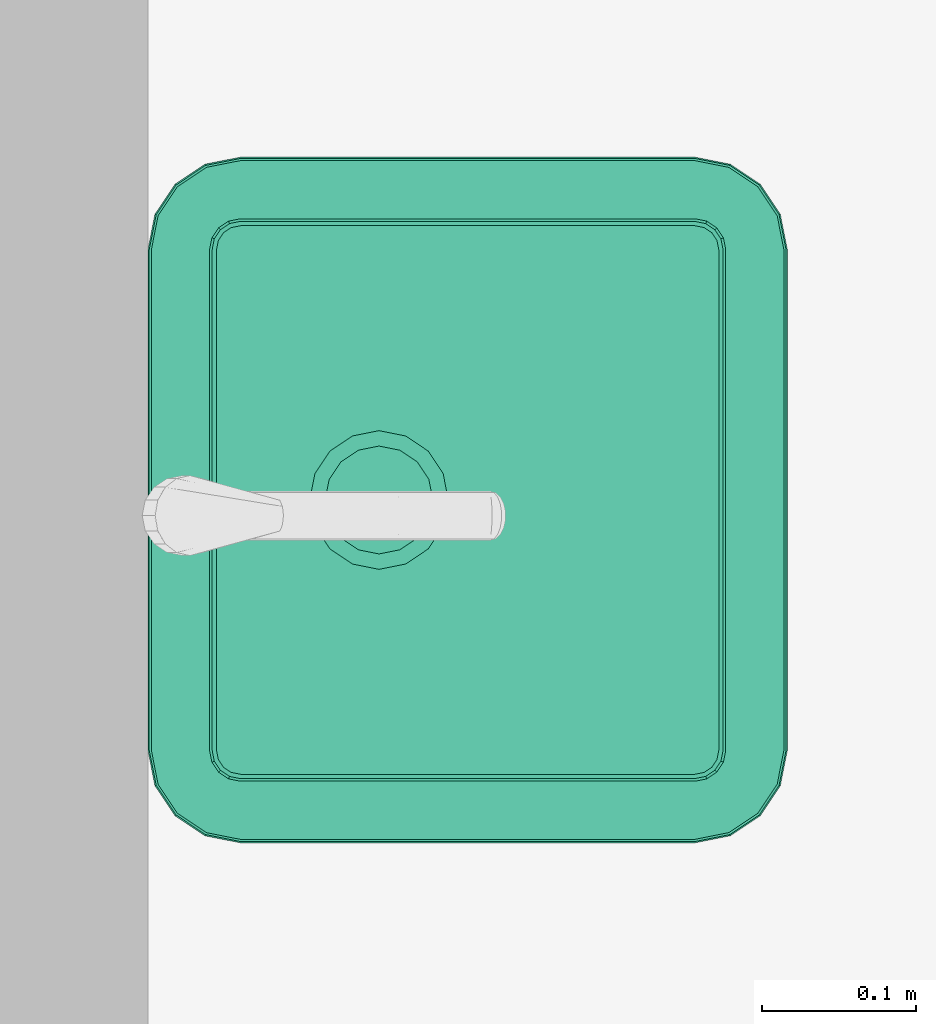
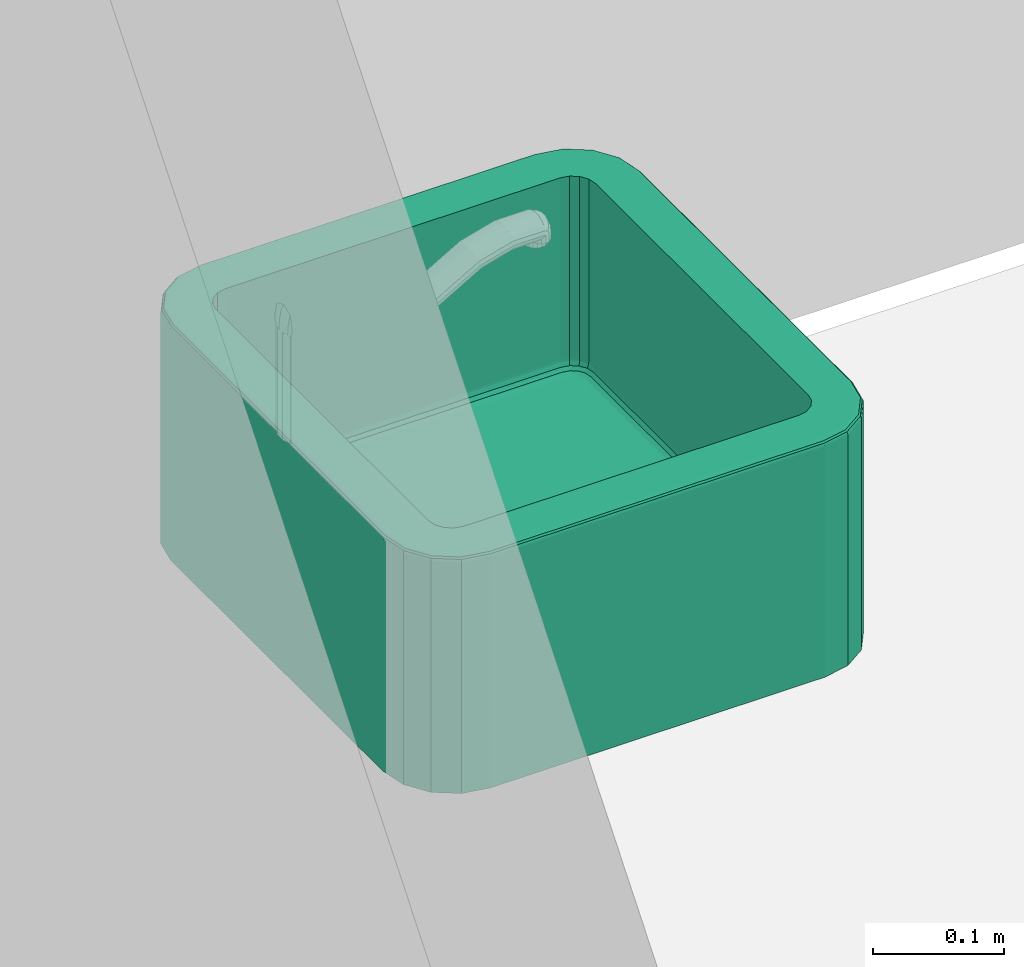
# One storey, part 89 of 127: 1 flow terminal.
"""IFC2X3 building model written with IfcOpenShell, lengths in millimetres."""

from ifc_helpers import new_model, entity, si_unit, converted_unit, derived_unit, money_unit, direction, frame, origin_with_axes, place, context, subcontext, project, spatial, faceted_brep, source, transform, mapped, type_object, element, save


model = new_model("IFC2X3")

# Units and contexts
model_context = context("Model", 3, precision=1e-05, world=origin_with_axes(), true_north=direction((0.0, 1.0)))
body_context = subcontext(model_context, "Body", "Model", "MODEL_VIEW")
ifc_project = project(units=[si_unit("LENGTHUNIT", "METRE", prefix="MILLI"), si_unit("AREAUNIT", "SQUARE_METRE"), si_unit("VOLUMEUNIT", "CUBIC_METRE"), converted_unit("PLANEANGLEUNIT", "DEGREE", entity("IfcPlaneAngleMeasure", 0.0174532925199), si_unit("PLANEANGLEUNIT", "RADIAN"), dimensions=[0, 0, 0, 0, 0, 0, 0]), si_unit("SOLIDANGLEUNIT", "STERADIAN"), money_unit("EUR"), converted_unit("TIMEUNIT", "Year", entity("IfcTimeMeasure", 31556926.0), si_unit("TIMEUNIT", "SECOND"), dimensions=[0, 0, 1, 0, 0, 0, 0]), si_unit("MASSUNIT", "GRAM", prefix="KILO"), si_unit("THERMODYNAMICTEMPERATUREUNIT", "DEGREE_CELSIUS"), si_unit("LUMINOUSINTENSITYUNIT", "LUMEN"), si_unit("ENERGYUNIT", "JOULE", prefix="MEGA"), derived_unit("THERMALCONDUCTANCEUNIT", [(si_unit("POWERUNIT", "WATT"), 1), (si_unit("LENGTHUNIT", "METRE"), -1), (si_unit("THERMODYNAMICTEMPERATUREUNIT", "KELVIN"), -1)]), derived_unit("SPECIFICHEATCAPACITYUNIT", [(si_unit("ENERGYUNIT", "JOULE"), 1), (si_unit("MASSUNIT", "GRAM", prefix="KILO"), -1), (si_unit("THERMODYNAMICTEMPERATUREUNIT", "KELVIN"), -1)]), derived_unit("MASSDENSITYUNIT", [(si_unit("MASSUNIT", "GRAM", prefix="KILO"), 1), (si_unit("VOLUMEUNIT", "CUBIC_METRE"), -1)])], contexts=[model_context])

# Site, building, storey
site_placement = place(None, origin_with_axes())
site = spatial("IfcSite", under=ifc_project, at=site_placement, Name="Site", CompositionType="ELEMENT")
building_placement = place(site_placement, origin_with_axes())
building = spatial("IfcBuilding", under=site, at=building_placement, Name="Building", CompositionType="ELEMENT")
storey_placement = place(building_placement, origin_with_axes())
storey = spatial("IfcBuildingStorey", under=building, at=storey_placement, Name="1 KORRUS", CompositionType="ELEMENT", Elevation=0.0)

# Flow terminal
sanitary_terminal_type = type_object("IfcSanitaryTerminalType", Name="Sink Belfast 22", PredefinedType="NOTDEFINED")
shared_shape = source(origin_with_axes(), body_context, "Body", "Brep", [
    faceted_brep([(21.1783900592, 393.821609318, 899.999999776), (9.27712238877, 376.010103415, 899.999999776), (4.99999698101, 354.50754327, 899.999999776), (4.99999698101, 60.4924569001, 899.999999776), (9.27712239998, 38.9898958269, 899.999999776), (21.1783900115, 21.1783900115, 899.999999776), (38.9898958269, 9.27712239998, 899.999999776), (60.4924569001, 4.99999698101, 899.999999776), (384.507543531, 4.99999698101, 899.999999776), (406.010103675, 9.27712238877, 899.999999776), (423.821609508, 21.1783900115, 899.999999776), (435.722877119, 38.9898958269, 899.999999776), (440.000002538, 60.4924569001, 899.999999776), (440.000002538, 354.50754327, 899.999999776), (435.72287713, 376.010103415, 899.999999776), (423.82160946, 393.821609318, 899.999999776), (406.010103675, 405.722877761, 899.999999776), (384.507543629, 410.000002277, 899.999999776), (222.499999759, 410.000002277, 899.999999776), (60.4924568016, 410.000002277, 899.999999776), (38.9898958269, 405.72287775, 899.999999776), (399.142135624, 369.142135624, 900.0), (403.47759065, 362.653668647, 900.0), (405.0, 355.0, 900.0), (405.0, 60.0, 900.0), (403.47759065, 52.3463313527, 900.0), (399.142135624, 45.8578643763, 900.0), (392.653668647, 41.5224093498, 900.0), (385.0, 40.0, 900.0), (60.0, 40.0, 900.0), (52.3463313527, 41.5224093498, 900.0), (45.8578643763, 45.8578643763, 900.0), (41.5224093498, 52.3463313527, 900.0), (40.0, 60.0, 900.0), (40.0, 355.0, 900.0), (41.5224093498, 362.653668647, 900.0), (45.8578643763, 369.142135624, 900.0), (52.3463313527, 373.47759065, 900.0), (60.0, 375.0, 900.0), (222.5, 375.0, 900.0), (385.0, 375.0, 900.0), (392.653668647, 373.47759065, 900.0), (20.4751302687, 394.524869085, 899.903926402), (8.3582692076, 376.390704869, 899.903926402), (4.02454764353, 354.60361665, 899.903926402), (4.02454764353, 60.396383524, 899.903926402), (8.35826921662, 38.6092943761, 899.903926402), (20.4751302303, 20.4751302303, 899.903926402), (38.6092943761, 8.35826921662, 899.903926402), (60.396383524, 4.02454764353, 899.903926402), (384.603616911, 4.02454764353, 899.903926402), (406.390705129, 8.3582692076, 899.903926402), (424.524869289, 20.4751302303, 899.903926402), (436.641730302, 38.6092943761, 899.903926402), (440.975451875, 60.396383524, 899.903926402), (440.975451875, 354.60361665, 899.903926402), (436.641730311, 376.390704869, 899.903926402), (424.52486925, 394.524869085, 899.903926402), (406.390705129, 406.64173095, 899.903926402), (384.60361699, 410.975451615, 899.903926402), (222.499999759, 410.975451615, 899.903926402), (60.3963834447, 410.975451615, 899.903926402), (38.6092943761, 406.641730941, 899.903926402), (399.142135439, 369.142135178, 730.0), (403.477591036, 362.653668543, 730.0), (404.999999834, 355.00000002, 730.0), (404.999999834, 60.0000000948, 730.0), (403.477591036, 52.3463315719, 730.0), (399.142135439, 45.8578640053, 730.0), (392.653668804, 41.5224093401, 730.0), (385.000000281, 39.9999996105, 730.0), (60.0000000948, 39.9999996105, 730.0), (52.3463315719, 41.5224093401, 730.0), (45.8578640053, 45.8578640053, 730.0), (41.5224093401, 52.3463315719, 730.0), (39.9999996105, 60.0000000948, 730.0), (39.9999996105, 355.00000002, 730.0), (41.5224093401, 362.653668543, 730.0), (45.8578640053, 369.142135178, 730.0), (52.3463315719, 373.477590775, 730.0), (60.0000000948, 374.999999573, 730.0), (222.499999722, 374.999999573, 730.0), (385.000000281, 374.999999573, 730.0), (392.653668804, 373.477590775, 730.0), (19.175673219, 395.824326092, 899.157348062), (6.66044678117, 377.093965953, 899.157348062), (2.22214896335, 354.781137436, 899.157348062), (2.22214896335, 60.2188627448, 899.157348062), (6.66044678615, 37.9060332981, 899.157348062), (19.1756731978, 19.1756731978, 899.157348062), (37.9060332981, 6.66044678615, 899.157348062), (60.2188627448, 2.22214896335, 899.157348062), (384.781137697, 2.22214896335, 899.157348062), (407.093966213, 6.66044678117, 899.157348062), (425.824326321, 19.1756731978, 899.157348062), (438.339552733, 37.9060332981, 899.157348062), (442.777850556, 60.2188627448, 899.157348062), (442.777850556, 354.781137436, 899.157348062), (438.339552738, 377.093965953, 899.157348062), (425.8243263, 395.824326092, 899.157348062), (407.093966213, 408.339553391, 899.157348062), (384.781137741, 412.777850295, 899.157348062), (222.499999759, 412.777850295, 899.157348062), (60.2188627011, 412.777850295, 899.157348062), (37.9060332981, 408.339553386, 899.157348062), (399.003605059, 369.003604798, 728.04909678), (403.296592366, 362.578696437, 728.04909678), (404.807852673, 354.981075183, 728.04909678), (404.807852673, 60.0189249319, 728.04909678), (403.296592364, 52.4213036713, 728.04909678), (399.003605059, 45.9963943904, 728.04909678), (392.578696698, 41.7034080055, 728.04909678), (384.981075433, 40.1921467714, 728.04909678), (60.0189249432, 40.1921467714, 728.04909678), (52.4213036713, 41.7034080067, 728.04909678), (45.9963943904, 45.9963943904, 728.04909678), (41.7034080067, 52.4213036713, 728.04909678), (40.1921467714, 60.0189249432, 728.04909678), (40.1921467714, 354.981075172, 728.04909678), (41.7034080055, 362.578696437, 728.04909678), (45.9963943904, 369.003604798, 728.04909678), (52.4213036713, 373.296592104, 728.04909678), (60.0189249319, 374.807852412, 728.04909678), (222.499999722, 374.807852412, 728.04909678), (384.981075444, 374.807852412, 728.04909678), (392.578696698, 373.296592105, 728.04909678), (18.1811110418, 396.818888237, 897.777851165), (5.36098869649, 377.632219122, 897.777851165), (0.842651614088, 354.917006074, 897.777851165), (0.842651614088, 60.0829941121, 897.777851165), (5.36098869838, 37.3677801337, 897.777851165), (18.1811110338, 18.1811110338, 897.777851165), (37.3677801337, 5.36098869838, 897.777851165), (60.0829941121, 0.842651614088, 897.777851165), (384.917006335, 0.842651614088, 897.777851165), (407.632219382, 5.36098869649, 897.777851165), (426.818888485, 18.1811110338, 897.777851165), (439.639010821, 37.3677801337, 897.777851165), (444.157347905, 60.0829941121, 897.777851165), (444.157347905, 354.917006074, 897.777851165), (439.639010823, 377.632219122, 897.777851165), (426.818888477, 396.818888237, 897.777851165), (407.632219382, 409.639011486, 897.777851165), (384.917006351, 414.157347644, 897.777851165), (222.499999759, 414.157347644, 897.777851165), (60.0829940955, 414.157347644, 897.777851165), (37.3677801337, 409.639011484, 897.777851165), (397.927098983, 367.927098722, 724.44429767), (401.890069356, 361.996095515, 724.44429767), (403.314695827, 354.83401212, 724.44429767), (403.314695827, 60.1659879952, 724.44429767), (401.890069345, 53.0039045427, 724.44429767), (397.927098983, 47.0729005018, 724.44429767), (391.996095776, 43.1099309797, 724.44429767), (384.834012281, 41.6853036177, 724.44429767), (60.1659880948, 41.6853036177, 724.44429767), (53.0039045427, 43.1099309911, 724.44429767), (47.0729005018, 47.0729005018, 724.44429767), (43.1099309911, 53.0039045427, 724.44429767), (41.6853036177, 60.1659880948, 724.44429767), (41.6853036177, 354.83401202, 724.44429767), (43.1099309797, 361.996095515, 724.44429767), (47.0729005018, 367.927098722, 724.44429767), (53.0039045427, 371.890069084, 724.44429767), (60.1659879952, 373.314695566, 724.44429767), (222.499999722, 373.314695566, 724.44429767), (384.834012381, 373.314695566, 724.44429767), (391.996095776, 371.890069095, 724.44429767), (17.6428579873, 397.357141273, 895.97545161), (4.65772720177, 377.923519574, 895.97545161), (0.0960731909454, 354.990537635, 895.97545161), (0.0960731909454, 60.009462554, 895.97545161), (4.65772720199, 37.0764796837, 895.97545161), (17.6428579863, 17.6428579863, 895.97545161), (37.0764796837, 4.65772720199, 895.97545161), (60.009462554, 0.0960731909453, 895.97545161), (384.990537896, 0.0960731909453, 895.97545161), (407.923519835, 4.65772720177, 895.97545161), (427.357141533, 17.6428579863, 895.97545161), (440.342272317, 37.0764796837, 895.97545161), (444.903926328, 60.009462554, 895.97545161), (444.903926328, 354.990537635, 895.97545161), (440.342272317, 377.923519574, 895.97545161), (427.357141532, 397.357141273, 895.97545161), (407.923519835, 410.342272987, 895.97545161), (384.990537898, 414.903926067, 895.97545161), (222.499999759, 414.903926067, 895.97545161), (60.0094625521, 414.903926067, 895.97545161), (37.0764796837, 410.342272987, 895.97545161), (395.937975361, 365.9379751, 721.685303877), (399.291154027, 360.91958951, 721.685303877), (400.55570206, 354.562275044, 721.685303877), (400.55570206, 60.437725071, 721.685303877), (399.291153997, 54.0804104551, 721.685303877), (395.937975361, 49.062024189, 721.685303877), (390.919589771, 45.7088462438, 721.685303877), (384.562275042, 44.4442973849, 721.685303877), (60.4377253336, 44.4442973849, 721.685303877), (54.0804104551, 45.7088462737, 721.685303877), (49.062024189, 49.062024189, 721.685303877), (45.7088462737, 54.0804104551, 721.685303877), (44.4442973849, 60.4377253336, 721.685303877), (44.4442973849, 354.562274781, 721.685303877), (45.7088462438, 360.91958951, 721.685303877), (49.062024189, 365.9379751, 721.685303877), (54.0804104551, 369.291153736, 721.685303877), (60.437725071, 370.555701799, 721.685303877), (222.499999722, 370.555701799, 721.685303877), (384.562275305, 370.555701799, 721.685303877), (390.919589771, 369.291153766, 721.685303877), (17.5735927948, 397.426406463, 895.0), (4.56722786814, 377.961005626, 895.0), (-3.89516363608e-07, 355.000000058, 895.0), (-3.89516363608e-07, 60.000000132, 895.0), (4.56722786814, 37.0389936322, 895.0), (17.5735927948, 17.5735927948, 895.0), (37.0389936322, 4.56722786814, 895.0), (60.000000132, -3.89516419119e-07, 895.0), (385.000000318, -3.89516419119e-07, 895.0), (407.961005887, 4.56722786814, 895.0), (427.426406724, 17.5735927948, 895.0), (440.432771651, 37.0389936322, 895.0), (444.999999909, 60.000000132, 895.0), (444.999999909, 355.000000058, 895.0), (440.432771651, 377.961005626, 895.0), (427.426406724, 397.426406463, 895.0), (407.961005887, 410.432772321, 895.0), (385.000000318, 414.999999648, 895.0), (222.499999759, 414.999999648, 895.0), (60.000000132, 414.999999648, 895.0), (37.0389936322, 410.432772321, 895.0), (393.339059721, 363.33905946, 720.192147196), (395.895507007, 359.513066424, 720.192147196), (396.950902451, 354.207233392, 720.192147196), (396.950902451, 60.7927667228, 720.192147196), (395.895506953, 55.4869334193, 720.192147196), (393.339059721, 51.6609399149, 720.192147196), (389.513066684, 49.104493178, 720.192147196), (384.207233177, 48.0490969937, 720.192147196), (60.7927671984, 48.0490969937, 720.192147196), (55.4869334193, 49.1044932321, 720.192147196), (51.6609399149, 51.6609399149, 720.192147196), (49.1044932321, 55.4869334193, 720.192147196), (48.0490969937, 60.7927671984, 720.192147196), (48.0490969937, 354.207232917, 720.192147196), (49.104493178, 359.513066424, 720.192147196), (51.6609399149, 363.33905946, 720.192147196), (55.4869334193, 365.895506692, 720.192147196), (60.7927667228, 366.95090219, 720.192147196), (222.499999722, 366.95090219, 720.192147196), (384.207233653, 366.95090219, 720.192147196), (389.513066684, 365.895506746, 720.192147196), (17.5735931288, 397.426406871, 680.0), (4.56722804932, 377.961005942, 680.0), (0.0, 355.0, 680.0), (0.0, 60.0, 680.0), (4.56722804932, 37.0389940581, 680.0), (17.5735931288, 17.5735931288, 680.0), (37.0389940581, 4.56722804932, 680.0), (60.0, 0.0, 680.0), (385.0, 0.0, 680.0), (407.961005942, 4.56722804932, 680.0), (427.426406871, 17.5735931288, 680.0), (440.432771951, 37.0389940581, 680.0), (445.0, 60.0, 680.0), (445.0, 355.0, 680.0), (440.432771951, 377.961005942, 680.0), (427.426406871, 397.426406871, 680.0), (407.961005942, 410.432771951, 680.0), (385.0, 415.0, 680.0), (222.5, 415.0, 680.0), (60.0, 415.0, 680.0), (37.0389940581, 410.432771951, 680.0), (391.932540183, 361.932539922, 720.000000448), (394.057800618, 358.751863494, 720.000000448), (395.000003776, 354.015086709, 720.000000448), (395.000003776, 60.9849134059, 720.000000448), (394.057800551, 56.2481362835, 720.000000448), (391.932540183, 53.0674594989, 720.000000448), (388.751863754, 50.9421995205, 720.000000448), (384.015086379, 49.9999956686, 720.000000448), (60.9849139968, 49.9999956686, 720.000000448), (56.2481362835, 50.9421995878, 720.000000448), (53.0674594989, 53.0674594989, 720.000000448), (50.9421995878, 56.2481362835, 720.000000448), (49.9999956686, 60.9849139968, 720.000000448), (49.9999956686, 354.015086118, 720.000000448), (50.9421995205, 358.751863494, 720.000000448), (53.0674594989, 361.932539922, 720.000000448), (56.2481362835, 364.05780029, 720.000000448), (60.9849134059, 365.000003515, 720.000000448), (222.499999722, 365.000003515, 720.000000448), (384.01508697, 365.000003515, 720.000000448), (388.751863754, 364.057800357, 720.000000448), (267.5, 265.0, 720.0), (264.074578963, 247.779245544, 720.0), (254.319805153, 233.180194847, 720.0), (239.720754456, 223.425421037, 720.0), (222.5, 220.0, 720.0), (205.279245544, 223.425421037, 720.0), (190.680194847, 233.180194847, 720.0), (180.925421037, 247.779245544, 720.0), (177.5, 265.0, 720.0), (180.925421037, 282.220754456, 720.0), (190.680194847, 296.819805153, 720.0), (205.279245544, 306.574578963, 720.0), (222.5, 310.0, 720.0), (239.720754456, 306.574578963, 720.0), (254.319805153, 296.819805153, 720.0), (264.074578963, 282.220754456, 720.0), (257.5, 265.0, 710.0), (254.835783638, 251.606079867, 710.0), (247.248737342, 240.251262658, 710.0), (235.893920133, 232.664216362, 710.0), (222.5, 230.0, 710.0), (209.106079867, 232.664216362, 710.0), (197.751262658, 240.251262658, 710.0), (190.164216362, 251.606079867, 710.0), (187.5, 265.0, 710.0), (190.164216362, 278.393920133, 710.0), (197.751262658, 289.748737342, 710.0), (209.106079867, 297.335783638, 710.0), (222.5, 300.0, 710.0), (235.893920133, 297.335783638, 710.0), (247.248737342, 289.748737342, 710.0), (254.835783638, 278.393920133, 710.0)], [[[0, 1, 2, 3, 4, 5, 6, 7, 8, 9, 10, 11, 12, 13, 14, 15, 16, 17, 18, 19, 20], [21, 22, 23, 24, 25, 26, 27, 28, 29, 30, 31, 32, 33, 34, 35, 36, 37, 38, 39, 40, 41]], [[0, 42, 43, 1]], [[1, 43, 44, 2]], [[2, 44, 45, 3]], [[3, 45, 46, 4]], [[4, 46, 47, 5]], [[5, 47, 48, 6]], [[6, 48, 49, 7]], [[7, 49, 50, 8]], [[8, 50, 51, 9]], [[9, 51, 52, 10]], [[10, 52, 53, 11]], [[11, 53, 54, 12]], [[12, 54, 55, 13]], [[13, 55, 56, 14]], [[14, 56, 57, 15]], [[15, 57, 58, 16]], [[16, 58, 59, 17]], [[17, 59, 60, 18]], [[18, 60, 61, 19]], [[19, 61, 62, 20]], [[20, 62, 42, 0]], [[22, 21, 63, 64]], [[23, 22, 64, 65]], [[24, 23, 65, 66]], [[25, 24, 66, 67]], [[26, 25, 67, 68]], [[27, 26, 68, 69]], [[28, 27, 69, 70]], [[29, 28, 70, 71]], [[30, 29, 71, 72]], [[31, 30, 72, 73]], [[32, 31, 73, 74]], [[33, 32, 74, 75]], [[34, 33, 75, 76]], [[35, 34, 76, 77]], [[36, 35, 77, 78]], [[37, 36, 78, 79]], [[38, 37, 79, 80]], [[39, 38, 80, 81]], [[40, 39, 81, 82]], [[41, 40, 82, 83]], [[21, 41, 83, 63]], [[42, 84, 85, 43]], [[43, 85, 86, 44]], [[44, 86, 87, 45]], [[45, 87, 88, 46]], [[46, 88, 89, 47]], [[47, 89, 90, 48]], [[48, 90, 91, 49]], [[49, 91, 92, 50]], [[50, 92, 93, 51]], [[51, 93, 94, 52]], [[52, 94, 95, 53]], [[53, 95, 96, 54]], [[54, 96, 97, 55]], [[55, 97, 98, 56]], [[56, 98, 99, 57]], [[57, 99, 100, 58]], [[58, 100, 101, 59]], [[59, 101, 102, 60]], [[60, 102, 103, 61]], [[61, 103, 104, 62]], [[62, 104, 84, 42]], [[64, 63, 105, 106]], [[65, 64, 106, 107]], [[66, 65, 107, 108]], [[67, 66, 108, 109]], [[68, 67, 109, 110]], [[69, 68, 110, 111]], [[70, 69, 111, 112]], [[71, 70, 112, 113]], [[72, 71, 113, 114]], [[73, 72, 114, 115]], [[74, 73, 115, 116]], [[75, 74, 116, 117]], [[76, 75, 117, 118]], [[77, 76, 118, 119]], [[78, 77, 119, 120]], [[79, 78, 120, 121]], [[80, 79, 121, 122]], [[81, 80, 122, 123]], [[82, 81, 123, 124]], [[83, 82, 124, 125]], [[63, 83, 125, 105]], [[84, 126, 127, 85]], [[85, 127, 128, 86]], [[86, 128, 129, 87]], [[87, 129, 130, 88]], [[88, 130, 131, 89]], [[89, 131, 132, 90]], [[90, 132, 133, 91]], [[91, 133, 134, 92]], [[92, 134, 135, 93]], [[93, 135, 136, 94]], [[94, 136, 137, 95]], [[95, 137, 138, 96]], [[96, 138, 139, 97]], [[97, 139, 140, 98]], [[98, 140, 141, 99]], [[99, 141, 142, 100]], [[100, 142, 143, 101]], [[101, 143, 144, 102]], [[102, 144, 145, 103]], [[103, 145, 146, 104]], [[104, 146, 126, 84]], [[106, 105, 147, 148]], [[107, 106, 148, 149]], [[108, 107, 149, 150]], [[109, 108, 150, 151]], [[110, 109, 151, 152]], [[111, 110, 152, 153]], [[112, 111, 153, 154]], [[113, 112, 154, 155]], [[114, 113, 155, 156]], [[115, 114, 156, 157]], [[116, 115, 157, 158]], [[117, 116, 158, 159]], [[118, 117, 159, 160]], [[119, 118, 160, 161]], [[120, 119, 161, 162]], [[121, 120, 162, 163]], [[122, 121, 163, 164]], [[123, 122, 164, 165]], [[124, 123, 165, 166]], [[125, 124, 166, 167]], [[105, 125, 167, 147]], [[126, 168, 169, 127]], [[127, 169, 170, 128]], [[128, 170, 171, 129]], [[129, 171, 172, 130]], [[130, 172, 173, 131]], [[131, 173, 174, 132]], [[132, 174, 175, 133]], [[133, 175, 176, 134]], [[134, 176, 177, 135]], [[135, 177, 178, 136]], [[136, 178, 179, 137]], [[137, 179, 180, 138]], [[138, 180, 181, 139]], [[139, 181, 182, 140]], [[140, 182, 183, 141]], [[141, 183, 184, 142]], [[142, 184, 185, 143]], [[143, 185, 186, 144]], [[144, 186, 187, 145]], [[145, 187, 188, 146]], [[146, 188, 168, 126]], [[148, 147, 189, 190]], [[149, 148, 190, 191]], [[150, 149, 191, 192]], [[151, 150, 192, 193]], [[152, 151, 193, 194]], [[153, 152, 194, 195]], [[154, 153, 195, 196]], [[155, 154, 196, 197]], [[156, 155, 197, 198]], [[157, 156, 198, 199]], [[158, 157, 199, 200]], [[159, 158, 200, 201]], [[160, 159, 201, 202]], [[161, 160, 202, 203]], [[162, 161, 203, 204]], [[163, 162, 204, 205]], [[164, 163, 205, 206]], [[165, 164, 206, 207]], [[166, 165, 207, 208]], [[167, 166, 208, 209]], [[147, 167, 209, 189]], [[168, 210, 211, 169]], [[169, 211, 212, 170]], [[170, 212, 213, 171]], [[171, 213, 214, 172]], [[172, 214, 215, 173]], [[173, 215, 216, 174]], [[174, 216, 217, 175]], [[175, 217, 218, 176]], [[176, 218, 219, 177]], [[177, 219, 220, 178]], [[178, 220, 221, 179]], [[179, 221, 222, 180]], [[180, 222, 223, 181]], [[181, 223, 224, 182]], [[182, 224, 225, 183]], [[183, 225, 226, 184]], [[184, 226, 227, 185]], [[185, 227, 228, 186]], [[186, 228, 229, 187]], [[187, 229, 230, 188]], [[188, 230, 210, 168]], [[190, 189, 231, 232]], [[191, 190, 232, 233]], [[192, 191, 233, 234]], [[193, 192, 234, 235]], [[194, 193, 235, 236]], [[195, 194, 236, 237]], [[196, 195, 237, 238]], [[197, 196, 238, 239]], [[198, 197, 239, 240]], [[199, 198, 240, 241]], [[200, 199, 241, 242]], [[201, 200, 242, 243]], [[202, 201, 243, 244]], [[203, 202, 244, 245]], [[204, 203, 245, 246]], [[205, 204, 246, 247]], [[206, 205, 247, 248]], [[207, 206, 248, 249]], [[208, 207, 249, 250]], [[209, 208, 250, 251]], [[189, 209, 251, 231]], [[210, 252, 253, 211]], [[211, 253, 254, 212]], [[212, 254, 255, 213]], [[213, 255, 256, 214]], [[214, 256, 257, 215]], [[215, 257, 258, 216]], [[216, 258, 259, 217]], [[217, 259, 260, 218]], [[218, 260, 261, 219]], [[219, 261, 262, 220]], [[220, 262, 263, 221]], [[221, 263, 264, 222]], [[222, 264, 265, 223]], [[223, 265, 266, 224]], [[224, 266, 267, 225]], [[225, 267, 268, 226]], [[226, 268, 269, 227]], [[227, 269, 270, 228]], [[228, 270, 271, 229]], [[229, 271, 272, 230]], [[230, 272, 252, 210]], [[232, 231, 273, 274]], [[233, 232, 274, 275]], [[234, 233, 275, 276]], [[235, 234, 276, 277]], [[236, 235, 277, 278]], [[237, 236, 278, 279]], [[238, 237, 279, 280]], [[239, 238, 280, 281]], [[240, 239, 281, 282]], [[241, 240, 282, 283]], [[242, 241, 283, 284]], [[243, 242, 284, 285]], [[244, 243, 285, 286]], [[245, 244, 286, 287]], [[246, 245, 287, 288]], [[247, 246, 288, 289]], [[248, 247, 289, 290]], [[249, 248, 290, 291]], [[250, 249, 291, 292]], [[251, 250, 292, 293]], [[231, 251, 293, 273]], [[257, 256, 255, 254, 253, 252, 272, 271, 270, 269, 268, 267, 266, 265, 264, 263, 262, 261, 260, 259, 258]], [[287, 286, 285, 284, 283, 282, 281, 280, 279, 278, 277, 276, 275, 274, 273, 293, 292, 291, 290, 289, 288], [294, 295, 296, 297, 298, 299, 300, 301, 302, 303, 304, 305, 306, 307, 308, 309]], [[295, 294, 310, 311]], [[296, 295, 311, 312]], [[297, 296, 312, 313]], [[298, 297, 313, 314]], [[299, 298, 314, 315]], [[300, 299, 315, 316]], [[301, 300, 316, 317]], [[302, 301, 317, 318]], [[303, 302, 318, 319]], [[304, 303, 319, 320]], [[305, 304, 320, 321]], [[306, 305, 321, 322]], [[307, 306, 322, 323]], [[308, 307, 323, 324]], [[309, 308, 324, 325]], [[294, 309, 325, 310]], [[321, 320, 319, 318, 317, 316, 315, 314, 313, 312, 311, 310, 325, 324, 323, 322]]]),
    faceted_brep([(254.835783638, 251.606079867, 710.0), (247.248737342, 240.251262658, 710.0), (235.893920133, 232.664216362, 710.0), (222.5, 230.0, 710.0), (209.106079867, 232.664216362, 710.0), (197.751262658, 240.251262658, 710.0), (190.164216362, 251.606079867, 710.0), (187.5, 265.0, 710.0), (190.164216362, 278.393920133, 710.0), (197.751262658, 289.748737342, 710.0), (209.106079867, 297.335783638, 710.0), (222.5, 300.0, 710.0), (235.893920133, 297.335783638, 710.0), (247.248737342, 289.748737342, 710.0), (254.835783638, 278.393920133, 710.0), (257.5, 265.0, 710.0), (254.835783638, 251.606079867, 720.0), (247.248737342, 240.251262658, 720.0), (235.893920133, 232.664216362, 720.0), (222.5, 230.0, 720.0), (209.106079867, 232.664216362, 720.0), (197.751262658, 240.251262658, 720.0), (190.164216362, 251.606079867, 720.0), (187.5, 265.0, 720.0), (190.164216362, 278.393920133, 720.0), (197.751262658, 289.748737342, 720.0), (209.106079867, 297.335783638, 720.0), (222.5, 300.0, 720.0), (235.893920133, 297.335783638, 720.0), (247.248737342, 289.748737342, 720.0), (254.835783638, 278.393920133, 720.0), (257.5, 265.0, 720.0)], [[[0, 1, 2, 3, 4, 5, 6, 7, 8, 9, 10, 11, 12, 13, 14, 15]], [[1, 0, 16, 17]], [[2, 1, 17, 18]], [[3, 2, 18, 19]], [[4, 3, 19, 20]], [[5, 4, 20, 21]], [[6, 5, 21, 22]], [[7, 6, 22, 23]], [[8, 7, 23, 24]], [[9, 8, 24, 25]], [[10, 9, 25, 26]], [[11, 10, 26, 27]], [[12, 11, 27, 28]], [[13, 12, 28, 29]], [[14, 13, 29, 30]], [[15, 14, 30, 31]], [[0, 15, 31, 16]], [[16, 31, 30, 29, 28, 27, 26, 25, 24, 23, 22, 21, 20, 19, 18, 17]]]),
])
flow_terminal_placement = place(storey_placement, frame((40298.2475145, 63826.7549182, 119.950229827), z_axis=(0.0, 0.0, 1.0), x_axis=(0.0, 1.0, 0.0)))
element("IfcFlowTerminal", 1, at=flow_terminal_placement, inside=storey, type_object=sanitary_terminal_type, Name="Valamu", context=body_context, shape_type="MappedRepresentation", body=[
    mapped(shared_shape, transform((0.0, 0.0, 0.0))),
])

save(model, "model.ifc")
